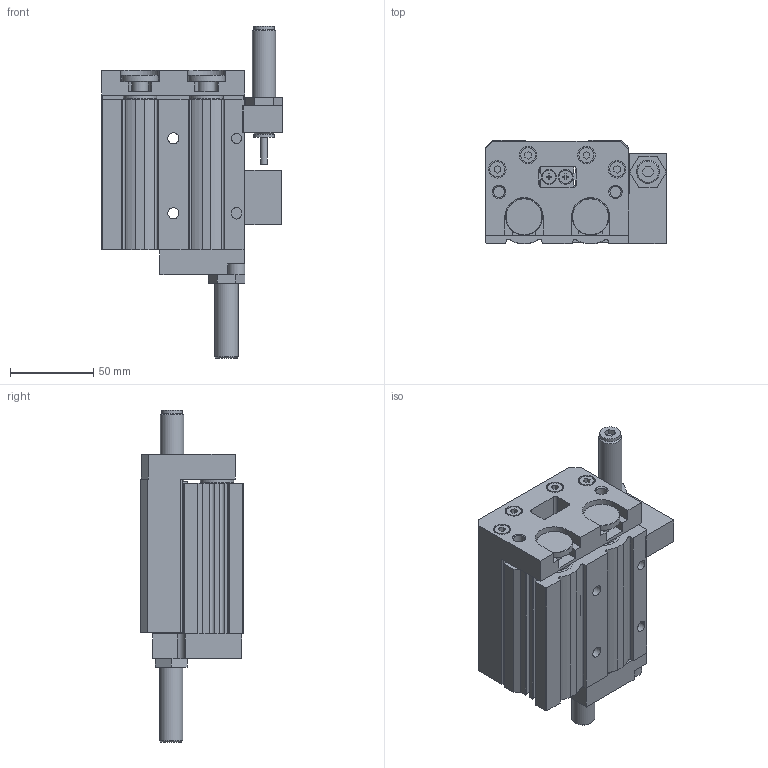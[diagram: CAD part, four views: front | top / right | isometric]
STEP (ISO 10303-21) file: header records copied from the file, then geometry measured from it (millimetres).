
FILE_DESCRIPTION( ( 'STEP AP214' ), '1' );
FILE_NAME( 'C:/Users/EMC02301/Desktop/ELSL图纸/ELSL25X20-S-B.stp', '2026-08-05T08:24:10', ( 'License CC BY-ND 4.0' ), ( 'CADENAS' ), ' ', 'PARTsolutions', ' ' );
FILE_SCHEMA( ( 'AUTOMOTIVE_DESIGN { 1 0 10303 214 1 1 1 1 }' ) );
Length unit declared in the file: millimetre
Products named in the file (6): ELSL25X20-S-B(0)(); _ELSL25X20-S-B(HX-07)(HX-07-1)(0-body); _ELSL25X20-S-B(0-rod); _FJ-ELS25-B; _FJ-ELSL25-B-(BS); _FJ-ELSL25-B-(BF)
Assembly tree (5 placements, depth 2):
  ELSL25X20-S-B(0)()
    _ELSL25X20-S-B(HX-07)(HX-07-1)(0-body)
    _ELSL25X20-S-B(0-rod)
    _FJ-ELS25-B
    _FJ-ELSL25-B-(BS)
    _FJ-ELSL25-B-(BF)
Bounding box: 108.5 x 62 x 199.5 mm (x, y, z)
Volume: 560659.1 mm3; surface area: 133487.4 mm2
Topology: 5 solids, 5 shells, 619 faces, 1498 edges, 990 vertices
Faces by surface type: plane 459, cylinder 128, cone 32
Full cylindrical faces by diameter (mm): 4 x2, 4.917 x10, 6 x2, 6.647 x8, 6.8 x2, 8 x8, 8.566 x2, 9 x12, 10 x8, 10.267 x2, 10.5 x7, 10.667 x2, 10.9 x2, 12 x7, 12.6 x2, 14 x3, 20 x2, 22 x2, 23 x2, 25 x4, 26 x2
Entity records: 22273 total; most frequent: CARTESIAN_POINT 2956, DIRECTION 2899, ORIENTED_EDGE 2716, EDGE_CURVE 1358, LINE 1067, VECTOR 1067, VERTEX_POINT 973, AXIS2_PLACEMENT_3D 916
